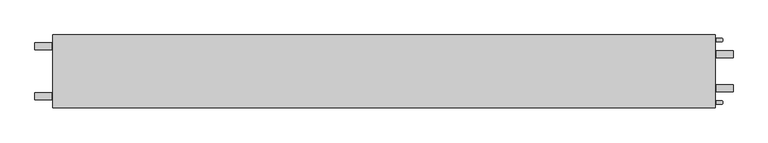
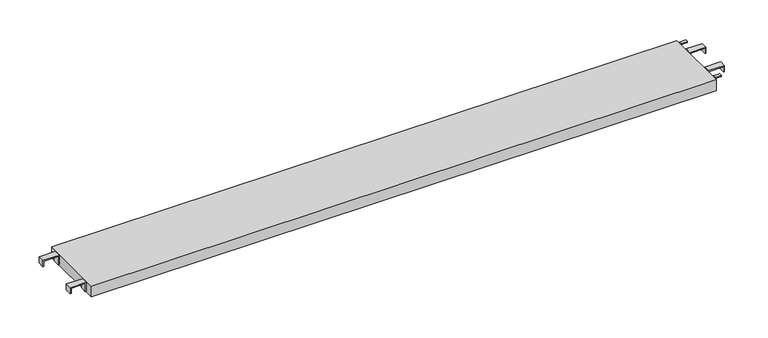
"""IFC4 building model written with IfcOpenShell, lengths in millimetres: proxy geometry, 05-Plateau 3.00 m : JPA Plateau Galva."""

from ifc_helpers import new_model, si_unit, frame, origin, place, context, project, spatial, circle_curve, faceted_brep, source, transform, mapped, element, save
from ifc_brep_helpers import plane_surface, cylinder_surface, advanced_brep


def generic_models_f49ab637(model_context):
    return source(origin(), model_context, "Body", "SolidModel", [
        advanced_brep(
        [(2961.3967339, 57.0, -4.0), (2961.3967339, 57.0, 0.0), (2987.3967339, 57.0, 0.0), (2987.3967339, 57.0, -4.0), (2991.2652684, 54.0022292, 0.0), (2991.2652684, 54.0022292, -4.0), (2991.2652684, 44.9684354, 0.0), (2991.2652684, 44.9684354, -4.0), (2987.3967339, 42.0, 0.0), (2987.3967339, 42.0, -4.0), (2961.3967339, 42.0, 0.0), (2961.3967339, 42.0, -4.0)],
        [
            (0, 1),
            (1, 2),
            (2, 3),
            (3, 0),
            (2, 4, circle_curve(frame((2987.3967339, 53.005, 0.0), z_axis=(0.0, 0.0, -1.0), x_axis=(-0.9999999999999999, 0.0, 0.0)), 3.995)),
            (4, 5),
            (5, 3, circle_curve(frame((2987.3967339, 53.005, -4.0), z_axis=(0.0, 0.0, 1.0), x_axis=(-0.9999999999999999, 0.0, 0.0)), 3.995)),
            (4, 6),
            (6, 7),
            (7, 5),
            (6, 8, circle_curve(frame((2987.3967339, 46.005, 0.0), z_axis=(0.0, 0.0, -1.0), x_axis=(-1.0, 0.0, 0.0)), 4.005)),
            (8, 9),
            (9, 7, circle_curve(frame((2987.3967339, 46.005, -4.0), z_axis=(0.0, 0.0, 1.0), x_axis=(-1.0, 0.0, 0.0)), 4.005)),
            (8, 10),
            (10, 11),
            (11, 9),
            (10, 1),
            (0, 11),
        ],
        [
            plane_surface(frame((2961.3967339, 57.0, 0.0), z_axis=(0.0, 1.0, 0.0), x_axis=(0.0, 0.0, 1.0))),
            cylinder_surface(frame((2987.3967339, 53.005, 0.0), z_axis=(0.0, 0.0, -1.0), x_axis=(-0.9999999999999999, 0.0, 0.0)), 3.995),
            plane_surface(frame((2991.2652684, 54.0022292, 0.0), z_axis=(1.0, 0.0, 0.0), x_axis=(0.0, 0.0, 1.0))),
            cylinder_surface(frame((2987.3967339, 46.005, 0.0), z_axis=(0.0, 0.0, -1.0), x_axis=(-1.0, 0.0, 0.0)), 4.005),
            plane_surface(frame((2987.3967339, 42.0, 0.0), z_axis=(0.0, -1.0, 0.0), x_axis=(0.0, 0.0, -1.0))),
            plane_surface(frame((2961.3967339, 42.0, 0.0), z_axis=(-1.0, 0.0, 0.0), x_axis=(0.0, 0.0, -1.0))),
            plane_surface(frame((2975.7547598, 49.4996037, -4.0), z_axis=(0.0, 0.0, -1.0), x_axis=(-1.0, 0.0, 0.0))),
            plane_surface(frame((2975.7547598, 49.4996037, 0.0), z_axis=(0.0, 0.0, 1.0), x_axis=(-1.0, 0.0, 0.0))),
        ],
        [
            (0, [[1, 2, 3, 4]]),
            (1, [[-3, 5, 6, 7]]),
            (2, [[-6, 8, 9, 10]]),
            (3, [[-9, 11, 12, 13]]),
            (4, [[-12, 14, 15, 16]]),
            (5, [[-15, 17, -1, 18]]),
            (6, [[-7, -10, -13, -16, -18, -4]]),
            (7, [[-14, -11, -8, -5, -2, -17]]),
        ],
    ),
        faceted_brep([(3032.3967339, 127.0, -4.0), (3032.3967339, 127.0, -30.0), (3032.3967339, 97.0, -30.0), (3032.3967339, 97.0, -4.0), (3036.3967339, 127.0, -30.0), (3036.3967339, 97.0, -30.0), (3036.3967339, 97.0, 0.0), (3036.3967339, 127.0, 0.0), (2961.3967339, 127.0, 0.0), (2961.3967339, 97.0, 0.0), (2961.3967339, 97.0, -45.0), (2965.3967339, 97.0, -45.0), (2965.3967339, 97.0, -4.0), (2965.3967339, 127.0, -4.0), (2965.3967339, 127.0, -45.0), (2961.3967339, 127.0, -45.0)], [[[0, 1, 2, 3]], [[1, 4, 5, 2]], [[6, 7, 8, 9]], [[3, 2, 5, 6, 9, 10, 11, 12]], [[3, 12, 13, 0]], [[5, 4, 7, 6]], [[7, 4, 1, 0, 13, 14, 15, 8]], [[9, 8, 15, 10]], [[11, 10, 15, 14]], [[12, 11, 14, 13]]]),
        faceted_brep([(3032.3967339, 277.0, -4.0), (3032.3967339, 277.0, -30.0), (3032.3967339, 247.0, -30.0), (3032.3967339, 247.0, -4.0), (3036.3967339, 277.0, -30.0), (3036.3967339, 247.0, -30.0), (3036.3967339, 247.0, 0.0), (3036.3967339, 277.0, 0.0), (2961.3967339, 277.0, 0.0), (2961.3967339, 247.0, 0.0), (2961.3967339, 247.0, -45.0), (2965.3967339, 247.0, -45.0), (2965.3967339, 247.0, -4.0), (2965.3967339, 277.0, -4.0), (2965.3967339, 277.0, -45.0), (2961.3967339, 277.0, -45.0)], [[[0, 1, 2, 3]], [[1, 4, 5, 2]], [[6, 7, 8, 9]], [[3, 2, 5, 6, 9, 10, 11, 12]], [[3, 12, 13, 0]], [[5, 4, 7, 6]], [[7, 4, 1, 0, 13, 14, 15, 8]], [[9, 8, 15, 10]], [[11, 10, 15, 14]], [[12, 11, 14, 13]]]),
        faceted_brep([(2927.3967339, 42.5, -3.0), (73.3967339, 42.5, -3.0), (73.3967339, 331.5, -3.0), (2927.3967339, 331.5, -3.0), (43.3967339, 27.0, 0.0), (2957.3967339, 27.0, 0.0), (2957.3967339, 347.0, 0.0), (43.3967339, 347.0, 0.0), (2927.3967339, 42.5, -53.0), (2927.3967339, 331.5, -53.0), (73.3967339, 331.5, -53.0), (43.3967339, 27.0, -53.0), (2957.3967339, 27.0, -53.0), (2957.3967339, 347.0, -53.0), (73.3967339, 42.5, -53.0), (43.3967339, 347.0, -53.0)], [[[0, 1, 2, 3]], [[4, 5, 6, 7]], [[8, 0, 3, 9]], [[3, 2, 10, 9]], [[5, 4, 11, 12]], [[13, 6, 5, 12]], [[8, 14, 1, 0]], [[10, 2, 1, 14]], [[12, 11, 15, 13], [8, 9, 10, 14]], [[7, 6, 13, 15]], [[11, 4, 7, 15]]]),
        faceted_brep([(-31.6032661, 282.0, -30.0), (-35.6032661, 282.0, -30.0), (-35.6032661, 312.0, -30.0), (-31.6032661, 312.0, -30.0), (-31.6032661, 282.0, -4.0), (-31.6032661, 312.0, -4.0), (-35.6032661, 312.0, 0.0), (39.3967339, 312.0, 0.0), (39.3967339, 312.0, -45.0), (35.3967339, 312.0, -45.0), (35.3967339, 312.0, -4.0), (35.3967339, 282.0, -4.0), (-35.6032661, 282.0, 0.0), (35.3967339, 282.0, -45.0), (39.3967339, 282.0, -45.0), (39.3967339, 282.0, 0.0)], [[[0, 1, 2, 3]], [[4, 0, 3, 5]], [[5, 3, 2, 6, 7, 8, 9, 10]], [[5, 10, 11, 4]], [[12, 6, 2, 1]], [[10, 9, 13, 11]], [[12, 1, 0, 4, 11, 13, 14, 15]], [[9, 8, 14, 13]], [[6, 12, 15, 7]], [[7, 15, 14, 8]]]),
        faceted_brep([(-31.6032661, 62.0, -30.0), (-35.6032661, 62.0, -30.0), (-35.6032661, 92.0, -30.0), (-31.6032661, 92.0, -30.0), (-31.6032661, 62.0, -4.0), (-31.6032661, 92.0, -4.0), (-35.6032661, 92.0, 0.0), (39.3967339, 92.0, 0.0), (39.3967339, 92.0, -45.0), (35.3967339, 92.0, -45.0), (35.3967339, 92.0, -4.0), (35.3967339, 62.0, -4.0), (-35.6032661, 62.0, 0.0), (35.3967339, 62.0, -45.0), (39.3967339, 62.0, -45.0), (39.3967339, 62.0, 0.0)], [[[0, 1, 2, 3]], [[4, 0, 3, 5]], [[5, 3, 2, 6, 7, 8, 9, 10]], [[5, 10, 11, 4]], [[12, 6, 2, 1]], [[10, 9, 13, 11]], [[12, 1, 0, 4, 11, 13, 14, 15]], [[9, 8, 14, 13]], [[6, 12, 15, 7]], [[7, 15, 14, 8]]]),
        advanced_brep(
        [(2961.3967339, 332.0, -4.0), (2961.3967339, 332.0, 0.0), (2987.3967339, 332.0, 0.0), (2987.3967339, 332.0, -4.0), (2991.2652684, 329.0022292, 0.0), (2991.2652684, 329.0022292, -4.0), (2991.2652684, 319.9684354, 0.0), (2991.2652684, 319.9684354, -4.0), (2987.3967339, 317.0, 0.0), (2987.3967339, 317.0, -4.0), (2961.3967339, 317.0, 0.0), (2961.3967339, 317.0, -4.0)],
        [
            (0, 1),
            (1, 2),
            (2, 3),
            (3, 0),
            (2, 4, circle_curve(frame((2987.3967339, 328.005, 0.0), z_axis=(0.0, 0.0, -1.0), x_axis=(-0.9999999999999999, 0.0, 0.0)), 3.995)),
            (4, 5),
            (5, 3, circle_curve(frame((2987.3967339, 328.005, -4.0), z_axis=(0.0, 0.0, 1.0), x_axis=(-0.9999999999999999, 0.0, 0.0)), 3.995)),
            (4, 6),
            (6, 7),
            (7, 5),
            (6, 8, circle_curve(frame((2987.3967339, 321.005, 0.0), z_axis=(0.0, 0.0, -1.0), x_axis=(-1.0, 0.0, 0.0)), 4.005)),
            (8, 9),
            (9, 7, circle_curve(frame((2987.3967339, 321.005, -4.0), z_axis=(0.0, 0.0, 1.0), x_axis=(-1.0, 0.0, 0.0)), 4.005)),
            (8, 10),
            (10, 11),
            (11, 9),
            (10, 1),
            (0, 11),
        ],
        [
            plane_surface(frame((2961.3967339, 332.0, 0.0), z_axis=(0.0, 1.0, 0.0), x_axis=(0.0, 0.0, 1.0))),
            cylinder_surface(frame((2987.3967339, 328.005, 0.0), z_axis=(0.0, 0.0, -1.0), x_axis=(-0.9999999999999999, 0.0, 0.0)), 3.995),
            plane_surface(frame((2991.2652684, 329.0022292, 0.0), z_axis=(1.0, 0.0, 0.0), x_axis=(0.0, 0.0, 1.0))),
            cylinder_surface(frame((2987.3967339, 321.005, 0.0), z_axis=(0.0, 0.0, -1.0), x_axis=(-1.0, 0.0, 0.0)), 4.005),
            plane_surface(frame((2987.3967339, 317.0, 0.0), z_axis=(0.0, -1.0, 0.0), x_axis=(0.0, 0.0, -1.0))),
            plane_surface(frame((2961.3967339, 317.0, 0.0), z_axis=(-1.0, 0.0, 0.0), x_axis=(0.0, 0.0, -1.0))),
            plane_surface(frame((2975.7547598, 324.4996037, -4.0), z_axis=(0.0, 0.0, -1.0), x_axis=(-1.0, 0.0, 0.0))),
            plane_surface(frame((2975.7547598, 324.4996037, 0.0), z_axis=(0.0, 0.0, 1.0), x_axis=(-1.0, 0.0, 0.0))),
        ],
        [
            (0, [[1, 2, 3, 4]]),
            (1, [[-3, 5, 6, 7]]),
            (2, [[-6, 8, 9, 10]]),
            (3, [[-9, 11, 12, 13]]),
            (4, [[-12, 14, 15, 16]]),
            (5, [[-15, 17, -1, 18]]),
            (6, [[-7, -10, -13, -16, -18, -4]]),
            (7, [[-14, -11, -8, -5, -2, -17]]),
        ],
    ),
    ])


if __name__ == "__main__":
    model = new_model("IFC4")
    model_context = context("Model", 3, world=origin())
    ifc_project = project(units=[si_unit("LENGTHUNIT", "METRE", prefix="MILLI")], contexts=[model_context])
    site = spatial("IfcSite", under=ifc_project)
    building = spatial("IfcBuilding", under=site)
    placement = place(None, origin())
    generic_models_shape = generic_models_f49ab637(model_context)
    element("IfcBuildingElementProxy", 1, Name="05-Plateau 3.00 m : JPA Plateau Galva", ObjectType="05-Plateau 3.00 m : JPA Plateau Galva", at=placement, inside=building, context=model_context, shape_type="MappedRepresentation", body=[
        mapped(generic_models_shape, transform((0.0, 0.0, 0.0), x_axis=(1.0, 0.0, 0.0), y_axis=(0.0, 1.0, 0.0), z_axis=(0.0, 0.0, 1.0))),
    ])
    save(model, "model.ifc")
